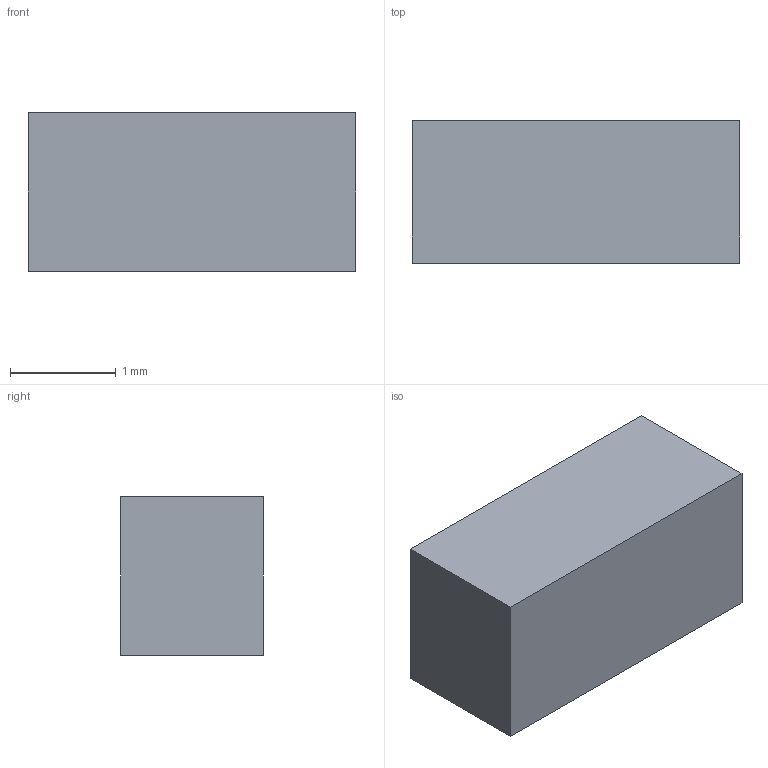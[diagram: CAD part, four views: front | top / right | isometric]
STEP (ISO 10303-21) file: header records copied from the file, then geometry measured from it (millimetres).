
FILE_DESCRIPTION(/* description */ ('STEP AP242 Edition 2','CAx-IF Rec.Pracs.---Representation and Presentation of Product Manufacturing Information (PMI)---4.0---2014-10-13','CAx-IF Rec.Pracs.---3D Tessellated Geometry---0.4---2014-09-14','2;1','CAx-IF Rec.Pracs.---User Defined Attributes---1.5---2016-08-15'),/* implementation_level */ '2;1');
FILE_NAME(/* name */ 'Drone Layout - Surface 201',/* time_stamp */ '2026-10-04T22:22:52Z',/* author */ (''),/* organization */ (''),/* preprocessor_version */ 'ST-DEVELOPER v20',/* originating_system */ 'ONSHAPE BY PTC INC, 1.221',/* authorisation */ ' ');
FILE_SCHEMA (('AP242_MANAGED_MODEL_BASED_3D_ENGINEERING_MIM_LF { 1 0 10303 442 3 1 4 }'));
Length unit declared in the file: metre
Products named in the file (1): cap:1__Body3_1
Bounding box: 3.1 x 1.35 x 1.5 mm (x, y, z)
Volume: 6.3 mm3; surface area: 21.7 mm2
Topology: 1 solids, 1 shells, 6 faces, 12 edges, 8 vertices
Faces by surface type: plane 6
Entity records: 169 total; most frequent: CARTESIAN_POINT 27, DIRECTION 26, ORIENTED_EDGE 24, EDGE_CURVE 12, LINE 12, VECTOR 12, VERTEX_POINT 8, AXIS2_PLACEMENT_3D 7
